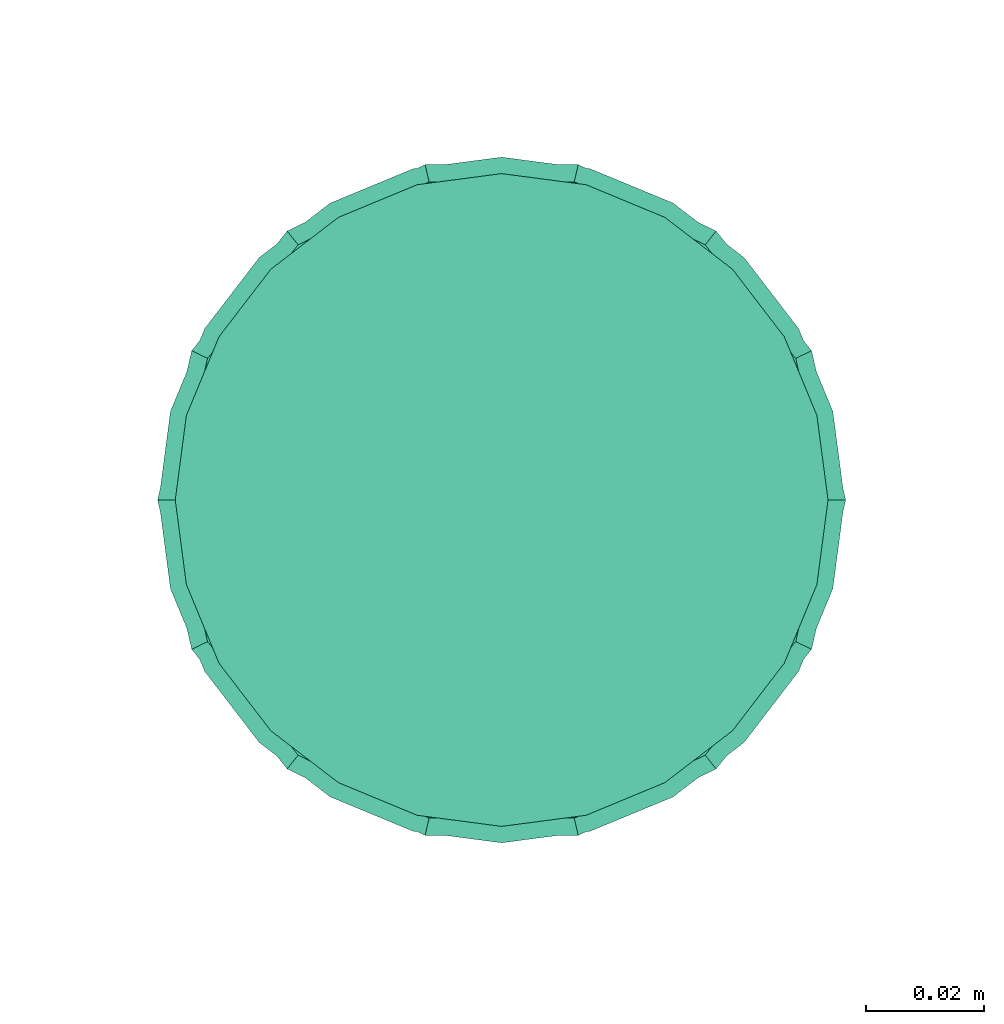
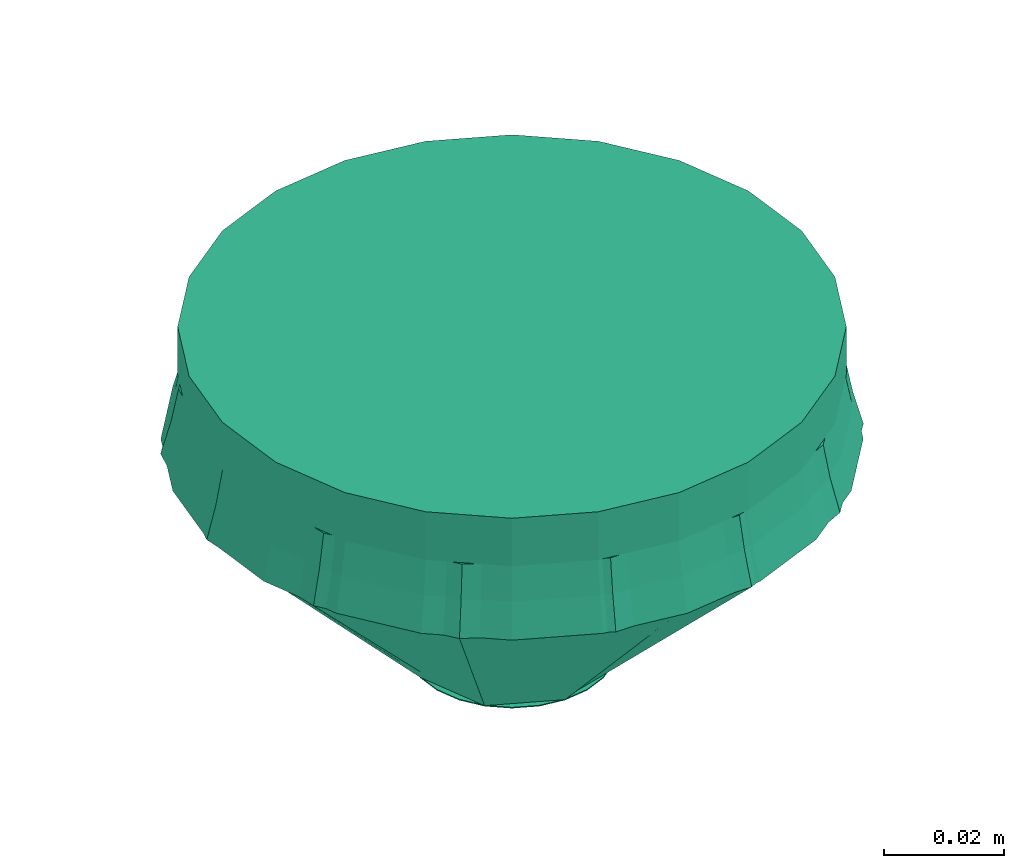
# One storey, part 3 of 10: 1 distribution control element.
"""IFC2X3 building model written with IfcOpenShell, lengths in millimetres."""

import ifcopenshell
import ifcopenshell.guid

model = None  # the IFC model being written
_history = None  # IfcOwnerHistory: only IFC2X3 demands one
_inside = {}  # id of a spatial element -> (the spatial element, [elements in it])
_under = {}  # id of a project, library or spatial element -> (it, [spatial elements below it])
_declared = {}  # id of a project -> (the project, [libraries it declares])
_typed = {}  # id of a type object -> (the type object, [elements of that type])
_made_of = {}  # id of a material, layer set ... -> (it, [elements and type objects made of it])


def new_model(schema):
    """Start an empty IFC model of exactly this schema.

    Asked for "IFC4X3", IfcOpenShell would pick the latest addendum, in which some entities
    have other attributes; the version numbers below select the first issue.
    IFC2X3 requires an IfcOwnerHistory on every rooted entity: one is made here for all.
    """
    global model, _history
    if schema == "IFC4X3":
        model = ifcopenshell.file(schema_version=(4, 3, 0, 0))
    else:
        model = ifcopenshell.file(schema=schema)
    _inside.clear()
    _under.clear()
    _declared.clear()
    _typed.clear()
    _made_of.clear()
    _history = None
    if model.schema == "IFC2X3":
        org = make("IfcOrganization", Name="unknown")
        user = make(
            "IfcPersonAndOrganization",
            ThePerson=make("IfcPerson", FamilyName="unknown"),
            TheOrganization=org,
        )
        app = make(
            "IfcApplication",
            ApplicationDeveloper=org,
            Version="unknown",
            ApplicationFullName="unknown",
            ApplicationIdentifier="unknown",
        )
        _history = make(
            "IfcOwnerHistory",
            OwningUser=user,
            OwningApplication=app,
            ChangeAction="ADDED",
            CreationDate=0,
        )
    return model


def make(cls, **values):
    """One entity of the class cls with the attributes given. An attribute that is None is left unset."""
    return model.create_entity(
        cls, **{name: value for name, value in values.items() if value is not None}
    )


def entity(cls, *values):
    """Any entity or typed value of the class cls, its attributes in the order of the schema. None: left unset."""
    e = model.create_entity(cls)
    for i, value in enumerate(values):
        if value is not None:
            e[i] = value
    return e


def rooted(cls, **values):
    """An entity with a GlobalId (a new one), such as an element, a storey or a relation."""
    return make(cls, GlobalId=ifcopenshell.guid.new(), OwnerHistory=_history, **values)


def si_unit(unit_type, name, prefix=None):
    """IfcSIUnit, for example si_unit("LENGTHUNIT", "METRE", prefix="MILLI")."""
    return make("IfcSIUnit", UnitType=unit_type, Prefix=prefix, Name=name)


def converted_unit(unit_type, name, factor, base, dimensions=None, offset=None):
    """IfcConversionBasedUnit, such as the inch: factor (a typed value) times the base unit."""
    return make(
        "IfcConversionBasedUnit"
        if offset is None
        else "IfcConversionBasedUnitWithOffset",
        ConversionOffset=offset,
        Dimensions=None
        if dimensions is None
        else entity("IfcDimensionalExponents", *dimensions),
        UnitType=unit_type,
        Name=name,
        ConversionFactor=make(
            "IfcMeasureWithUnit", ValueComponent=factor, UnitComponent=base
        ),
    )


def derived_unit(unit_type, elements):
    """IfcDerivedUnit: a product of units, each with its exponent."""
    return make(
        "IfcDerivedUnit",
        Elements=[
            make("IfcDerivedUnitElement", Unit=unit, Exponent=power)
            for unit, power in elements
        ],
        UnitType=unit_type,
    )


def assignment(units):
    """IfcUnitAssignment: the units of a project."""
    return None if units is None else make("IfcUnitAssignment", Units=units)


def point(xyz):
    """IfcCartesianPoint."""
    return None if xyz is None else make("IfcCartesianPoint", Coordinates=xyz)


def direction(xyz):
    """IfcDirection."""
    return None if xyz is None else make("IfcDirection", DirectionRatios=xyz)


def frame(location, z_axis=None, x_axis=None):
    """IfcAxis2Placement3D, a coordinate frame: its origin and axes. An axis left out is left unset."""
    return make(
        "IfcAxis2Placement3D",
        Location=point(location),
        Axis=direction(z_axis),
        RefDirection=direction(x_axis),
    )


def origin_with_axes():
    """The frame at (0, 0, 0) with the z axis (0, 0, 1) and the x axis (1, 0, 0) written out."""
    return frame((0.0, 0.0, 0.0), z_axis=(0.0, 0.0, 1.0), x_axis=(1.0, 0.0, 0.0))


def place(relative_to, where):
    """IfcLocalPlacement: puts the frame where relative to a parent placement (None: the world)."""
    return make(
        "IfcLocalPlacement", PlacementRelTo=relative_to, RelativePlacement=where
    )


def context(
    kind, dimensions, precision=None, world=None, true_north=None, identifier=None
):
    """IfcGeometricRepresentationContext, for example the 3D "Model" context."""
    return make(
        "IfcGeometricRepresentationContext",
        ContextIdentifier=identifier,
        ContextType=kind,
        CoordinateSpaceDimension=dimensions,
        Precision=precision,
        WorldCoordinateSystem=world,
        TrueNorth=true_north,
    )


def subcontext(parent, identifier, kind, view, scale=None):
    """IfcGeometricRepresentationSubContext, for example "Body" below "Model"."""
    return make(
        "IfcGeometricRepresentationSubContext",
        ContextIdentifier=identifier,
        ContextType=kind,
        ParentContext=parent,
        TargetScale=scale,
        TargetView=view,
    )


def project(units=None, contexts=None):
    """IfcProject with its units and contexts."""
    return rooted(
        "IfcProject",
        Name="project",
        RepresentationContexts=contexts,
        UnitsInContext=assignment(units),
    )


def spatial(cls, under=None, at=None, **own):
    """A site, building, storey or space (cls), placed at a placement, below another one or the project."""
    s = rooted(cls, ObjectPlacement=at, **own)
    if under is not None:
        _under.setdefault(under.id(), (under, []))[1].append(s)
    return s


def faces_of(points, faces, orient=None, outer=None):
    """IfcFace entities. A face is a list of loops; a loop is a list of indices into points, from 0.

    orient and outer hold one flag for each loop. By default every Orientation is true, the
    first loop of a face is its IfcFaceOuterBound and the others are IfcFaceBound.
    """
    made = []
    for i, loops in enumerate(faces):
        bounds = []
        for j, loop in enumerate(loops):
            is_outer = j == 0 if outer is None else outer[i][j]
            bounds.append(
                make(
                    "IfcFaceOuterBound" if is_outer else "IfcFaceBound",
                    Bound=make("IfcPolyLoop", Polygon=[points[k] for k in loop]),
                    Orientation=True if orient is None else orient[i][j],
                )
            )
        made.append(make("IfcFace", Bounds=bounds))
    return made


def open_shell(faces, orient=None, outer=None):
    """The faces of one IfcOpenShell. surface_model builds it on its shared points."""
    return ("IfcOpenShell", faces, orient, outer)


def surface_model(cls, points, shells):
    """IfcFaceBasedSurfaceModel or IfcShellBasedSurfaceModel (cls): surfaces that need not close."""
    shared = [point(p) for p in points]
    made = [make(c, CfsFaces=faces_of(shared, fs, o, b)) for c, fs, o, b in shells]
    if cls == "IfcFaceBasedSurfaceModel":
        return make(cls, FbsmFaces=made)
    return make(cls, SbsmBoundary=made)


def shape(context_of_items, identifier, shape_type, items):
    """IfcShapeRepresentation: the items that make up one representation, for example the "Body"."""
    return make(
        "IfcShapeRepresentation",
        ContextOfItems=context_of_items,
        RepresentationIdentifier=identifier,
        RepresentationType=shape_type,
        Items=items,
    )


def source(mapping_origin, context_of_items, identifier, shape_type, items):
    """IfcRepresentationMap: a shape defined once, which mapped items show again and again."""
    return make(
        "IfcRepresentationMap",
        MappingOrigin=mapping_origin,
        MappedRepresentation=shape(context_of_items, identifier, shape_type, items),
    )


def transform(
    local_origin,
    x_axis=None,
    y_axis=None,
    z_axis=None,
    scale=None,
    scale2=None,
    scale3=None,
    uniform=True,
):
    """IfcCartesianTransformationOperator3D, or its non-uniform kind. x_axis, y_axis, z_axis: its Axis1, 2, 3."""
    if uniform:
        return make(
            "IfcCartesianTransformationOperator3D",
            Axis1=direction(x_axis),
            Axis2=direction(y_axis),
            LocalOrigin=point(local_origin),
            Scale=scale,
            Axis3=direction(z_axis),
        )
    return make(
        "IfcCartesianTransformationOperator3DnonUniform",
        Axis1=direction(x_axis),
        Axis2=direction(y_axis),
        LocalOrigin=point(local_origin),
        Scale=scale,
        Axis3=direction(z_axis),
        Scale2=scale2,
        Scale3=scale3,
    )


def mapped(mapping_source, mapping_target):
    """IfcMappedItem: shows the shape of a source again, moved by a transform."""
    return make(
        "IfcMappedItem", MappingSource=mapping_source, MappingTarget=mapping_target
    )


def made_of(thing, what):
    """Note that an element or type object is made of a material, layer set ...; save() writes the relation."""
    if what is not None:
        _made_of.setdefault(what.id(), (what, []))[1].append(thing)
    return thing


def type_object(cls, material=None, **own):
    """A type object (cls), such as IfcWallType, which elements share."""
    return made_of(rooted(cls, **own), material)


def element(
    cls,
    number,
    at=None,
    inside=None,
    cuts=None,
    type_object=None,
    material=None,
    context=None,
    identifier="Body",
    shape_type=None,
    held_by="IfcProductDefinitionShape",
    body=None,
    shapes=None,
    **own,
):
    """One element of the class cls, such as IfcWall. Its Tag is "e" and its number.

    at: its placement. inside: the storey or other place that contains it. cuts: it is an
    opening in that element (IfcRelVoidsElement). A single representation is given by context,
    identifier, shape_type and body (its items); several are given by shapes. held_by: the class
    of the entity that holds the representations. save() writes the other relations.
    """
    e = rooted(cls, Tag="e%d" % number, ObjectPlacement=at, **own)
    if body is not None:
        shapes = [shape(context, identifier, shape_type, body)]
    if shapes is not None:
        e.Representation = make(held_by, Representations=shapes)
    if inside is not None:
        _inside.setdefault(inside.id(), (inside, []))[1].append(e)
    if cuts is not None:
        rooted(
            "IfcRelVoidsElement", RelatingBuildingElement=cuts, RelatedOpeningElement=e
        )
    if type_object is not None:
        _typed.setdefault(type_object.id(), (type_object, []))[1].append(e)
    return made_of(e, material)


def aggregate(whole, parts):
    """IfcRelAggregates: a whole, such as a stair, and the parts it consists of."""
    return rooted("IfcRelAggregates", RelatingObject=whole, RelatedObjects=parts)


def save(model, path):
    """Write the relations noted so far, then the file.

    IfcRelAggregates (storeys below a building ...), IfcRelContainedInSpatialStructure (elements
    in a storey), IfcRelDefinesByType, IfcRelAssociatesMaterial and IfcRelDeclares: one each for
    every whole, place, type object, material and project.
    """
    for whole, parts in _under.values():
        aggregate(whole, parts)
    for where, things in _inside.values():
        rooted(
            "IfcRelContainedInSpatialStructure",
            RelatedElements=things,
            RelatingStructure=where,
        )
    for kind, things in _typed.values():
        rooted("IfcRelDefinesByType", RelatedObjects=things, RelatingType=kind)
    for what, things in _made_of.values():
        rooted("IfcRelAssociatesMaterial", RelatedObjects=things, RelatingMaterial=what)
    for by, libraries in _declared.values():
        rooted("IfcRelDeclares", RelatingContext=by, RelatedDefinitions=libraries)
    model.write(path)


model = new_model("IFC2X3")

# Units and contexts
model_context = context("Model", 3, precision=0.01, world=frame((0.0, 4.29681676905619e-09, 0.0)), true_north=direction((4.01073788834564e-13, 1.0)))
plan_context = context("Plan", 3, precision=0.01, world=frame((0.0, 4.29681676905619e-09, 0.0)), true_north=direction((4.01073788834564e-13, 1.0)))
body_context = subcontext(model_context, "Body", "Model", "MODEL_VIEW")
ifc_project = project(units=[converted_unit("PLANEANGLEUNIT", "DEGREE", entity("IfcPositiveLengthMeasure", 0.0174532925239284), si_unit("PLANEANGLEUNIT", "RADIAN"), dimensions=[0, 0, 0, 0, 0, 0, 0]), si_unit("AREAUNIT", "SQUARE_METRE"), si_unit("LENGTHUNIT", "METRE", prefix="MILLI"), si_unit("MASSUNIT", "GRAM", prefix="KILO"), si_unit("POWERUNIT", "WATT"), si_unit("PRESSUREUNIT", "PASCAL"), si_unit("FORCEUNIT", "NEWTON", prefix="KILO"), si_unit("ELECTRICVOLTAGEUNIT", "VOLT"), si_unit("ELECTRICCURRENTUNIT", "AMPERE"), si_unit("THERMODYNAMICTEMPERATUREUNIT", "DEGREE_CELSIUS"), si_unit("TIMEUNIT", "SECOND"), si_unit("VOLUMEUNIT", "CUBIC_METRE"), derived_unit("LINEARVELOCITYUNIT", [(si_unit("LENGTHUNIT", "METRE"), 1), (si_unit("TIMEUNIT", "SECOND"), -1)]), derived_unit("VOLUMETRICFLOWRATEUNIT", [(si_unit("VOLUMEUNIT", "CUBIC_METRE"), 1), (si_unit("TIMEUNIT", "SECOND"), -1)]), derived_unit("THERMALTRANSMITTANCEUNIT", [(si_unit("POWERUNIT", "WATT"), 1), (si_unit("THERMODYNAMICTEMPERATUREUNIT", "KELVIN"), -1), (si_unit("AREAUNIT", "SQUARE_METRE"), -1)]), derived_unit("SOUNDPRESSUREUNIT", [(si_unit("PRESSUREUNIT", "PASCAL"), 1)])], contexts=[model_context, plan_context])

# Site, building, storey
site_placement = place(None, frame((0.0, -4.29681676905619e-09, 0.0), z_axis=(0.0, 0.0, 1.0), x_axis=(1.0, 0.0, 0.0)))
site = spatial("IfcSite", under=ifc_project, at=site_placement, Name="ENGM", CompositionType="ELEMENT")
building_placement = place(site_placement, frame((0.0, 4.29681676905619e-09, 0.0), z_axis=(0.0, 0.0, 1.0), x_axis=(1.0, 0.0, 0.0)))
building = spatial("IfcBuilding", under=site, at=building_placement, Name="TS", CompositionType="ELEMENT")
storey_placement = place(building_placement, frame((0.0, 0.0, 210900.0), z_axis=(0.0, 0.0, 1.0), x_axis=(1.0, 0.0, 0.0)))
storey = spatial("IfcBuildingStorey", under=building, at=storey_placement, Name="Nivå F", CompositionType="ELEMENT", Elevation=210900.0)

# Distribution control element
alarm_type = type_object("IfcAlarmType", Name="Brannalarm Multikriteriedetektor OT Blue", PredefinedType="NOTDEFINED")
shared_shape = source(origin_with_axes(), body_context, "Body", "SurfaceModel", [
    surface_model("IfcShellBasedSurfaceModel", [(8.775, -15.19875, -64.9), (-12.40972, -12.40972, -64.9), (4.54227, -16.952, -64.9), (15.19875, -8.775, -64.9), (12.40972, -12.40972, -64.9), (16.952, -4.54227, -64.9), (-4.54227, 16.952, -64.9), (-16.952, -4.54227, -64.9), (0.0, -17.55, -64.9), (-8.775, -15.19875, -64.9), (-4.54227, -16.952, -64.9), (-15.19875, -8.775, -64.9), (17.55, 0.0, -64.9), (15.19875, 8.775, -64.9), (16.952, 4.54227, -64.9), (0.0, 17.55, -64.9), (12.40972, 12.40972, -64.9), (4.54227, 16.952, -64.9), (8.775, 15.19875, -64.9), (-17.55, 0.0, -64.9), (-15.19875, 8.775, -64.9), (-16.952, 4.54227, -64.9), (-12.40972, 12.40972, -64.9), (-8.775, 15.19875, -64.9), (16.952, 4.54227, -65.1), (0.0, 17.55, -65.1), (4.54227, 16.952, -65.1), (12.40972, 12.40972, -65.1), (8.775, 15.19875, -65.1), (15.19875, 8.775, -65.1), (-12.40972, 12.40972, -65.1), (-4.54227, 16.952, -65.1), (-8.775, 15.19875, -65.1), (-15.19875, 8.775, -65.1), (-17.55, 0.0, -65.1), (-16.952, 4.54227, -65.1), (-16.952, -4.54227, -65.1), (16.952, -4.54227, -65.1), (8.775, -15.19875, -65.1), (15.19875, -8.775, -65.1), (12.40972, -12.40972, -65.1), (-12.40972, -12.40972, -65.1), (4.54227, -16.952, -65.1), (-15.19875, -8.775, -65.1), (-8.775, -15.19875, -65.1), (0.0, -17.55, -65.1), (-4.54227, -16.952, -65.1), (17.55, 0.0, -65.1), (-36.47415, 45.73714, -22.75), (-52.70668, 25.3822, -22.75), (-58.5, 0.0, -22.75), (52.70668, 25.3822, -22.75), (13.01748, 57.03328, -22.75), (-13.01748, 57.03328, -22.75), (36.47415, 45.73714, -22.75), (-52.70668, -25.3822, -22.75), (-36.47415, -45.73714, -22.75), (-13.01748, -57.03328, -22.75), (36.47415, -45.73714, -22.75), (52.70668, -25.3822, -22.75), (58.5, 0.0, -22.75), (13.01748, -57.03328, -22.75), (0.0, 17.55, -65.0), (12.40972, 12.40972, -65.0), (-12.40972, 12.40972, -65.0), (-12.40972, -12.40972, -65.0), (-17.55, 0.0, -65.0), (17.55, 0.0, -65.0), (12.40972, -12.40972, -65.0), (0.0, -17.55, -65.0), (-44.59042, -35.55967, -22.75), (-13.69479, -9.30729, -65.0), (55.60334, -12.6911, -22.75), (14.97986, -6.20486, -65.0), (16.26493, -3.10243, -65.0), (-9.30729, -13.69479, -65.0), (-6.20486, -14.97986, -65.0), (-24.74581, -51.38521, -22.75), (-14.97986, -6.20486, -65.0), (24.74581, -51.38521, -22.75), (9.30729, -13.69479, -65.0), (-55.60334, -12.6911, -22.75), (-16.26493, -3.10243, -65.0), (-3.10243, -16.26493, -65.0), (3.10243, -16.26493, -65.0), (0.0, -57.03328, -22.75), (44.59042, -35.55967, -22.75), (13.69479, -9.30729, -65.0), (6.20486, -14.97986, -65.0), (44.59042, 35.55967, -22.75), (13.69479, 9.30729, -65.0), (-55.60334, 12.6911, -22.75), (-14.97986, 6.20486, -65.0), (-16.26493, 3.10243, -65.0), (9.30729, 13.69479, -65.0), (6.20486, 14.97986, -65.0), (24.74581, 51.38521, -22.75), (14.97986, 6.20486, -65.0), (-24.74581, 51.38521, -22.75), (-9.30729, 13.69479, -65.0), (55.60334, 12.6911, -22.75), (16.26493, 3.10243, -65.0), (3.10243, 16.26493, -65.0), (-3.10243, 16.26493, -65.0), (0.0, 57.03328, -22.75), (-44.59042, 35.55967, -22.75), (-13.69479, 9.30729, -65.0), (-6.20486, 14.97986, -65.0), (-28.275, 48.97374, -16.25), (-32.41056, 45.80041, -16.25), (-13.88456, 54.72206, -16.25), (-49.79102, 26.30191, -16.25), (-39.98689, 39.98689, -16.25), (-48.97374, 28.275, -16.25), (-37.1285, 42.18021, -16.25), (-35.38305, 44.36894, -16.25), (-56.2774, 2.07059, -16.25), (-56.75, 0.0, -16.25), (-56.55, 0.0, -16.25), (-51.91976, 21.16268, -16.25), (-51.12998, 24.6229, -16.25), (-54.62311, 14.63622, -16.25), (28.275, 48.97374, -16.25), (14.63622, 54.62311, -16.25), (13.88456, 54.72206, -16.25), (54.62311, -14.63622, -16.25), (56.2774, -2.07059, -16.25), (51.91976, -21.16268, -16.25), (12.62806, 55.32716, -16.25), (9.2884, 55.32716, -16.25), (49.79102, 26.30191, -16.25), (39.98689, 39.98689, -16.25), (37.1285, 42.18021, -16.25), (56.55, 0.0, -16.25), (56.75, 0.0, -16.25), (56.2774, 2.07059, -16.25), (39.98689, -39.98689, -16.25), (49.79102, -26.30191, -16.25), (37.1285, -42.18021, -16.25), (35.38305, 44.36894, -16.25), (32.41056, 45.80041, -16.25), (35.38305, -44.36894, -16.25), (32.41056, -45.80041, -16.25), (-56.2774, -2.07059, -16.25), (-49.79102, -26.30191, -16.25), (-51.91976, -21.16268, -16.25), (-51.12998, -24.6229, -16.25), (-37.1285, -42.18021, -16.25), (-35.38305, -44.36894, -16.25), (-32.41056, -45.80041, -16.25), (-13.88456, -54.72206, -16.25), (-28.275, -48.97374, -16.25), (-14.63622, -54.62311, -16.25), (51.12998, -24.6229, -16.25), (-39.98689, -39.98689, -16.25), (-48.97374, -28.275, -16.25), (-9.2884, 55.32716, -16.25), (-12.62806, 55.32716, -16.25), (28.275, -48.97374, -16.25), (13.88456, -54.72206, -16.25), (14.63622, -54.62311, -16.25), (48.97374, -28.275, -16.25), (12.62806, -55.32716, -16.25), (9.2884, -55.32716, -16.25), (0.0, -56.55, -16.25), (-9.2884, -55.32716, -16.25), (-12.62806, -55.32716, -16.25), (-54.62311, -14.63622, -16.25), (-14.63622, 54.62311, -16.25), (0.0, 56.55, -16.25), (48.97374, 28.275, -16.25), (51.91976, 21.16268, -16.25), (51.12998, 24.6229, -16.25), (54.62311, 14.63622, -16.25), (29.15, 50.48928, -22.75), (33.43697, 47.19977, -22.75), (14.29509, 56.41801, -22.75), (51.34019, 27.09572, -22.75), (41.22432, 41.22432, -22.75), (50.48928, 29.15, -22.75), (58.0274, 2.07059, -22.75), (58.3, 0.0, -22.75), (38.25759, 43.50078, -22.75), (-33.43697, 47.19977, -22.75), (-38.25759, 43.50078, -22.75), (56.31348, 15.08915, -22.75), (53.51269, 21.85086, -22.75), (-14.29509, -56.41801, -22.75), (-9.62167, -57.03328, -22.75), (-29.15, 50.48928, -22.75), (-15.08915, 56.31348, -22.75), (-14.29509, 56.41801, -22.75), (-56.31348, -15.08915, -22.75), (-58.0274, -2.07059, -22.75), (-53.51269, -21.85086, -22.75), (-9.62167, 57.03328, -22.75), (-51.34019, 27.09572, -22.75), (-41.22432, 41.22432, -22.75), (-41.22432, -41.22432, -22.75), (-51.34019, -27.09572, -22.75), (-38.25759, -43.50078, -22.75), (-58.3, 0.0, -22.75), (-58.0274, 2.07059, -22.75), (58.0274, -2.07059, -22.75), (-33.43697, -47.19977, -22.75), (51.34019, -27.09572, -22.75), (53.51269, -21.85086, -22.75), (41.22432, -41.22432, -22.75), (38.25759, -43.50078, -22.75), (29.15, -50.48928, -22.75), (15.08915, -56.31348, -22.75), (14.29509, -56.41801, -22.75), (9.62167, -57.03328, -22.75), (33.43697, -47.19977, -22.75), (50.48928, -29.15, -22.75), (9.62167, 57.03328, -22.75), (-29.15, -50.48928, -22.75), (-15.08915, -56.31348, -22.75), (-50.48928, -29.15, -22.75), (0.0, -58.3, -22.75), (56.31348, -15.08915, -22.75), (15.08915, 56.31348, -22.75), (0.0, 58.3, -22.75), (-50.48928, 29.15, -22.75), (-53.51269, 21.85086, -22.75), (-56.31348, 15.08915, -22.75), (53.15004, -15.77246, -16.25), (43.25652, -34.49592, -16.25), (-54.78902, -16.25884, -22.75), (-53.93999, -12.31145, -16.25), (24.00555, -49.84805, -16.25), (0.0, -55.32716, -16.25), (-24.00555, -49.84805, -16.25), (-43.25652, -34.49592, -16.25), (-53.15004, 15.77246, -16.25), (-43.25652, 34.49592, -16.25), (54.78902, 16.25884, -22.75), (53.93999, 12.31145, -16.25), (-24.00555, 49.84805, -16.25), (0.0, 55.32716, -16.25), (24.00555, 49.84805, -16.25), (43.25652, 34.49592, -16.25), (-27.65, 47.8912, -9.75), (-31.6774, 44.80087, -9.75), (-13.59132, 53.51067, -9.75), (-48.68446, 25.73491, -9.75), (-39.103, 39.103, -9.75), (-47.8912, 27.65, -9.75), (-34.60368, 43.39165, -9.75), (-36.322, 41.23694, -9.75), (-55.0274, 2.07059, -9.75), (-55.5, 0.0, -9.75), (-55.3, 0.0, -9.75), (-50.00377, 24.08055, -9.75), (-50.78195, 20.67112, -9.75), (-53.4157, 14.31269, -9.75), (27.65, 47.8912, -9.75), (14.31269, 53.4157, -9.75), (13.59132, 53.51067, -9.75), (53.4157, -14.31269, -9.75), (55.0274, -2.07059, -9.75), (50.78195, -20.67112, -9.75), (9.05035, 54.1085, -9.75), (12.34991, 54.1085, -9.75), (48.68446, 25.73491, -9.75), (39.103, 39.103, -9.75), (36.322, 41.23694, -9.75), (39.103, -39.103, -9.75), (48.68446, -25.73491, -9.75), (36.322, -41.23694, -9.75), (34.60368, 43.39165, -9.75), (31.6774, 44.80087, -9.75), (55.0274, 2.07059, -9.75), (55.3, 0.0, -9.75), (55.5, 0.0, -9.75), (34.60368, -43.39165, -9.75), (31.6774, -44.80087, -9.75), (-55.0274, -2.07059, -9.75), (-48.68446, -25.73491, -9.75), (-50.78195, -20.67112, -9.75), (-50.00377, -24.08055, -9.75), (-12.34991, -54.1085, -9.75), (-9.05035, -54.1085, -9.75), (-13.59132, -53.51067, -9.75), (-27.65, -47.8912, -9.75), (-14.31269, -53.4157, -9.75), (50.00377, -24.08055, -9.75), (-31.6774, -44.80087, -9.75), (-39.103, -39.103, -9.75), (-36.322, -41.23694, -9.75), (-47.8912, -27.65, -9.75), (-9.05035, 54.1085, -9.75), (-12.34991, 54.1085, -9.75), (27.65, -47.8912, -9.75), (13.59132, -53.51067, -9.75), (14.31269, -53.4157, -9.75), (47.8912, -27.65, -9.75), (0.0, -55.3, -9.75), (9.05035, -54.1085, -9.75), (12.34991, -54.1085, -9.75), (-34.60368, -43.39165, -9.75), (-53.4157, -14.31269, -9.75), (-14.31269, 53.4157, -9.75), (0.0, 55.3, -9.75), (47.8912, 27.65, -9.75), (50.78195, 20.67112, -9.75), (50.00377, 24.08055, -9.75), (53.4157, 14.31269, -9.75), (51.93259, -15.62982, -9.75), (42.30373, -33.7361, -9.75), (-53.10225, -15.98184, -16.25), (-52.75189, -12.04027, -9.75), (23.4768, -48.75007, -9.75), (53.93999, -12.31145, -16.25), (0.0, -54.1085, -9.75), (-23.4768, -48.75007, -9.75), (-42.30373, -33.7361, -9.75), (-51.93259, 15.62982, -9.75), (-42.30373, 33.7361, -9.75), (53.10225, 15.98184, -16.25), (52.75189, 12.04027, -9.75), (-23.4768, 48.75007, -9.75), (-53.93999, 12.31145, -16.25), (0.0, 54.1085, -9.75), (23.4768, 48.75007, -9.75), (42.30373, 33.7361, -9.75), (14.36446, -53.60888, 0.0), (27.75, -48.06441, 0.0), (39.24443, -39.24443, 0.0), (0.0, -55.5, 0.0), (48.06441, -27.75, 0.0), (53.60888, -14.36446, 0.0), (55.5, 0.0, 0.0), (-27.75, -48.06441, 0.0), (-14.36446, -53.60888, 0.0), (-48.06441, -27.75, 0.0), (-39.24443, -39.24443, 0.0), (-53.60888, -14.36446, 0.0), (48.06441, 27.75, 0.0), (14.36446, 53.60888, 0.0), (39.24443, 39.24443, 0.0), (0.0, 55.5, 0.0), (27.75, 48.06441, 0.0), (-27.75, 48.06441, 0.0), (-55.5, 0.0, 0.0), (-48.06441, 27.75, 0.0), (-53.60888, 14.36446, 0.0), (-39.24443, 39.24443, 0.0), (-14.36446, 53.60888, 0.0), (53.60888, 14.36446, 0.0), (14.36446, 53.60888, -9.75), (-27.75, 48.06441, -9.75), (0.0, 55.5, -9.75), (39.24443, 39.24443, -9.75), (27.75, 48.06441, -9.75), (48.06441, 27.75, -9.75), (53.60888, 14.36446, -9.75), (-48.06441, 27.75, -9.75), (-39.24443, 39.24443, -9.75), (-14.36446, 53.60888, -9.75), (-53.60888, 14.36446, -9.75), (53.60888, -14.36446, -9.75), (48.06441, -27.75, -9.75), (-53.60888, -14.36446, -9.75), (39.24443, -39.24443, -9.75), (27.75, -48.06441, -9.75), (14.36446, -53.60888, -9.75), (-27.75, -48.06441, -9.75), (-48.06441, -27.75, -9.75), (-39.24443, -39.24443, -9.75), (0.0, -55.5, -9.75), (-14.36446, -53.60888, -9.75)], [open_shell([[[0, 1, 2]], [[3, 0, 4]], [[0, 5, 1]], [[5, 0, 3]], [[5, 6, 7]], [[8, 9, 10]], [[9, 8, 1]], [[1, 7, 11]], [[1, 8, 2]], [[5, 7, 1]], [[5, 12, 6]], [[13, 6, 14]], [[15, 13, 16]], [[17, 15, 16]], [[17, 16, 18]], [[6, 13, 15]], [[19, 20, 21]], [[19, 7, 20]], [[22, 6, 23]], [[7, 22, 20]], [[6, 22, 7]], [[12, 14, 6]], [[24, 25, 26]], [[27, 26, 28]], [[29, 24, 26]], [[29, 26, 27]], [[25, 24, 30]], [[31, 30, 32]], [[31, 25, 30]], [[33, 34, 35]], [[36, 34, 33]], [[33, 30, 36]], [[30, 24, 37]], [[36, 30, 37]], [[38, 37, 39]], [[36, 37, 38]], [[38, 39, 40]], [[41, 38, 42]], [[36, 41, 43]], [[36, 38, 41]], [[44, 45, 46]], [[45, 44, 41]], [[42, 45, 41]], [[37, 24, 47]], [[36, 7, 34]], [[43, 11, 36]], [[9, 41, 44]], [[43, 41, 1]], [[10, 44, 46]], [[36, 11, 7]], [[7, 19, 34]], [[10, 9, 44]], [[1, 41, 9]], [[1, 11, 43]], [[8, 10, 46]], [[46, 45, 8]], [[42, 2, 45]], [[38, 0, 42]], [[3, 40, 39]], [[38, 40, 4]], [[5, 39, 37]], [[38, 4, 0]], [[0, 2, 42]], [[12, 5, 37]], [[3, 39, 5]], [[3, 4, 40]], [[47, 12, 37]], [[45, 2, 8]], [[24, 14, 47]], [[29, 13, 24]], [[18, 27, 28]], [[29, 27, 16]], [[17, 28, 26]], [[24, 13, 14]], [[14, 12, 47]], [[17, 18, 28]], [[16, 27, 18]], [[16, 13, 29]], [[15, 17, 26]], [[26, 25, 15]], [[31, 6, 25]], [[32, 23, 31]], [[20, 30, 33]], [[32, 30, 22]], [[21, 33, 35]], [[32, 22, 23]], [[23, 6, 31]], [[19, 21, 35]], [[20, 33, 21]], [[20, 22, 30]], [[34, 19, 35]], [[25, 6, 15]], [[48, 49, 50]], [[48, 50, 51]], [[52, 53, 51]], [[51, 54, 52]], [[53, 48, 51]], [[50, 55, 51]], [[55, 56, 57]], [[57, 58, 51]], [[59, 60, 58]], [[60, 51, 58]], [[57, 61, 58]], [[51, 55, 57]], [[62, 63, 64]], [[65, 66, 64]], [[64, 63, 65]], [[67, 68, 69]], [[69, 65, 67]], [[67, 65, 63]], [[65, 70, 71]], [[72, 73, 74]], [[75, 76, 77]], [[55, 78, 71]], [[79, 80, 58]], [[78, 55, 81]], [[81, 82, 78]], [[57, 76, 83]], [[84, 85, 69]], [[59, 73, 72]], [[55, 71, 70]], [[69, 85, 83]], [[60, 74, 67]], [[68, 86, 58]], [[86, 68, 87]], [[56, 65, 75]], [[87, 59, 86]], [[60, 72, 74]], [[65, 56, 70]], [[66, 82, 50]], [[50, 82, 81]], [[56, 75, 77]], [[80, 79, 88]], [[61, 84, 88]], [[80, 68, 58]], [[87, 73, 59]], [[76, 57, 77]], [[85, 84, 61]], [[57, 83, 85]], [[79, 61, 88]], [[63, 89, 90]], [[91, 92, 93]], [[94, 95, 96]], [[51, 97, 90]], [[98, 99, 48]], [[97, 51, 100]], [[100, 101, 97]], [[52, 95, 102]], [[103, 104, 62]], [[49, 92, 91]], [[51, 90, 89]], [[62, 104, 102]], [[50, 93, 66]], [[64, 105, 48]], [[105, 64, 106]], [[54, 63, 94]], [[106, 49, 105]], [[50, 91, 93]], [[63, 54, 89]], [[67, 101, 60]], [[60, 101, 100]], [[54, 94, 96]], [[99, 98, 107]], [[53, 103, 107]], [[99, 64, 48]], [[106, 92, 49]], [[95, 52, 96]], [[104, 103, 53]], [[52, 102, 104]], [[98, 53, 107]], [[108, 109, 110]], [[111, 112, 113]], [[114, 109, 115]], [[116, 117, 118]], [[119, 111, 120]], [[121, 116, 119]], [[122, 123, 124]], [[125, 126, 127]], [[128, 129, 124]], [[130, 131, 132]], [[133, 134, 135]], [[136, 137, 138]], [[132, 139, 140]], [[141, 138, 142]], [[112, 111, 114]], [[117, 143, 118]], [[144, 145, 146]], [[147, 148, 149]], [[150, 151, 152]], [[127, 137, 153]], [[151, 150, 149]], [[154, 147, 144]], [[154, 144, 155]], [[110, 156, 157]], [[158, 159, 160]], [[133, 126, 134]], [[161, 137, 136]], [[162, 159, 163]], [[164, 163, 165]], [[158, 142, 159]], [[150, 166, 165]], [[167, 145, 143]], [[108, 110, 168]], [[169, 156, 129]], [[122, 124, 140]], [[131, 130, 170]], [[130, 171, 172]], [[173, 171, 135]], [[174, 175, 176]], [[177, 178, 179]], [[180, 60, 181]], [[54, 182, 175]], [[48, 183, 184]], [[185, 180, 186]], [[57, 187, 188]], [[189, 190, 191]], [[192, 193, 194]], [[195, 191, 53]], [[196, 197, 184]], [[198, 199, 200]], [[51, 186, 177]], [[201, 50, 202]], [[203, 181, 60]], [[178, 177, 182]], [[204, 56, 200]], [[205, 206, 59]], [[205, 207, 208]], [[209, 210, 211]], [[212, 211, 61]], [[209, 211, 213]], [[194, 199, 55]], [[207, 205, 214]], [[215, 52, 176]], [[216, 187, 217]], [[201, 193, 50]], [[198, 218, 199]], [[208, 58, 213]], [[219, 188, 212]], [[204, 187, 216]], [[220, 206, 203]], [[174, 176, 221]], [[222, 215, 195]], [[189, 191, 183]], [[197, 196, 223]], [[196, 224, 49]], [[225, 224, 202]], [[153, 59, 226]], [[141, 86, 227]], [[228, 146, 229]], [[162, 79, 230]], [[134, 226, 72]], [[72, 60, 134]], [[226, 59, 72]], [[230, 58, 141]], [[59, 153, 227]], [[141, 58, 86]], [[85, 231, 166]], [[166, 57, 85]], [[148, 77, 232]], [[56, 233, 70]], [[146, 70, 233]], [[57, 232, 77]], [[146, 55, 70]], [[50, 229, 117]], [[162, 61, 79]], [[232, 57, 166]], [[58, 230, 79]], [[146, 228, 55]], [[56, 148, 233]], [[59, 227, 86]], [[148, 56, 77]], [[162, 231, 61]], [[50, 228, 229]], [[61, 231, 85]], [[120, 49, 234]], [[115, 105, 235]], [[236, 172, 237]], [[157, 98, 238]], [[117, 234, 91]], [[91, 50, 117]], [[234, 49, 91]], [[238, 48, 115]], [[49, 120, 235]], [[115, 48, 105]], [[104, 239, 128]], [[128, 52, 104]], [[139, 96, 240]], [[54, 241, 89]], [[172, 89, 241]], [[52, 240, 96]], [[172, 51, 89]], [[60, 237, 134]], [[157, 53, 98]], [[240, 52, 128]], [[48, 238, 98]], [[172, 236, 51]], [[54, 139, 241]], [[49, 235, 105]], [[139, 54, 96]], [[157, 239, 53]], [[60, 236, 237]], [[53, 239, 104]], [[125, 133, 181]], [[125, 220, 161]], [[158, 136, 207]], [[214, 136, 161]], [[160, 158, 209]], [[220, 125, 181]], [[214, 161, 220]], [[207, 209, 158]], [[136, 214, 207]], [[210, 160, 209]], [[210, 219, 164]], [[160, 210, 164]], [[151, 152, 217]], [[151, 216, 154]], [[167, 155, 218]], [[198, 155, 154]], [[118, 167, 192]], [[152, 219, 217]], [[151, 217, 216]], [[155, 198, 218]], [[118, 192, 201]], [[192, 167, 218]], [[198, 154, 216]], [[164, 219, 152]], [[121, 118, 201]], [[121, 225, 113]], [[108, 112, 197]], [[223, 112, 113]], [[168, 108, 189]], [[225, 121, 201]], [[223, 113, 225]], [[197, 189, 108]], [[112, 223, 197]], [[190, 168, 189]], [[190, 222, 169]], [[168, 190, 169]], [[122, 123, 221]], [[122, 174, 131]], [[173, 170, 179]], [[178, 170, 131]], [[133, 173, 185]], [[123, 222, 221]], [[122, 221, 174]], [[170, 178, 179]], [[133, 185, 181]], [[185, 173, 179]], [[178, 131, 174]], [[169, 222, 123]], [[242, 243, 244]], [[245, 246, 247]], [[243, 248, 249]], [[250, 251, 252]], [[253, 254, 245]], [[255, 250, 254]], [[256, 257, 258]], [[259, 260, 261]], [[262, 258, 263]], [[264, 265, 266]], [[267, 268, 269]], [[266, 270, 271]], [[272, 273, 274]], [[275, 269, 276]], [[246, 245, 249]], [[277, 252, 251]], [[278, 279, 280]], [[281, 282, 283]], [[283, 284, 285]], [[261, 268, 286]], [[284, 283, 287]], [[288, 289, 278]], [[288, 278, 290]], [[244, 291, 292]], [[293, 294, 295]], [[273, 260, 274]], [[268, 267, 296]], [[294, 293, 276]], [[297, 298, 282]], [[298, 299, 294]], [[300, 287, 289]], [[301, 279, 277]], [[242, 244, 302]], [[303, 291, 262]], [[256, 258, 271]], [[265, 264, 304]], [[264, 305, 306]], [[307, 305, 272]], [[122, 140, 124]], [[170, 130, 131]], [[135, 134, 133]], [[140, 139, 132]], [[172, 171, 130]], [[173, 135, 171]], [[110, 157, 156]], [[108, 168, 110]], [[167, 143, 145]], [[114, 111, 112]], [[154, 144, 147]], [[115, 109, 114]], [[116, 118, 117]], [[150, 165, 166]], [[131, 130, 132]], [[126, 133, 134]], [[137, 127, 153]], [[145, 144, 146]], [[159, 158, 160]], [[163, 159, 162]], [[158, 159, 142]], [[136, 138, 137]], [[136, 137, 161]], [[124, 129, 128]], [[151, 150, 152]], [[118, 143, 117]], [[155, 144, 154]], [[147, 149, 148]], [[164, 165, 163]], [[151, 149, 150]], [[138, 141, 142]], [[125, 127, 126]], [[122, 124, 123]], [[169, 129, 156]], [[108, 110, 109]], [[112, 111, 113]], [[111, 119, 120]], [[121, 119, 116]], [[286, 153, 308]], [[275, 227, 309]], [[310, 280, 311]], [[299, 230, 312]], [[274, 308, 313]], [[313, 134, 274]], [[308, 153, 313]], [[312, 141, 275]], [[153, 286, 309]], [[275, 141, 227]], [[231, 314, 281]], [[281, 166, 231]], [[300, 232, 315]], [[148, 316, 233]], [[280, 233, 316]], [[166, 315, 232]], [[280, 146, 233]], [[117, 311, 251]], [[299, 162, 230]], [[315, 166, 281]], [[141, 312, 230]], [[280, 310, 146]], [[148, 300, 316]], [[153, 309, 227]], [[300, 148, 232]], [[299, 314, 162]], [[117, 310, 311]], [[162, 314, 231]], [[253, 120, 317]], [[248, 235, 318]], [[319, 306, 320]], [[292, 238, 321]], [[251, 317, 322]], [[322, 117, 251]], [[317, 120, 322]], [[321, 115, 248]], [[120, 253, 318]], [[248, 115, 235]], [[239, 323, 263]], [[263, 128, 239]], [[270, 240, 324]], [[139, 325, 241]], [[306, 241, 325]], [[128, 324, 240]], [[306, 172, 241]], [[134, 320, 274]], [[292, 157, 238]], [[324, 128, 263]], [[115, 321, 238]], [[306, 319, 172]], [[139, 270, 325]], [[120, 318, 235]], [[270, 139, 240]], [[292, 323, 157]], [[134, 319, 320]], [[157, 323, 239]], [[259, 273, 133]], [[259, 125, 296]], [[293, 267, 136]], [[161, 267, 296]], [[295, 293, 158]], [[125, 259, 133]], [[161, 296, 125]], [[136, 158, 293]], [[267, 161, 136]], [[160, 295, 158]], [[160, 164, 297]], [[295, 160, 297]], [[284, 285, 152]], [[284, 151, 288]], [[301, 290, 155]], [[154, 290, 288]], [[252, 301, 167]], [[285, 164, 152]], [[284, 152, 151]], [[290, 154, 155]], [[252, 167, 118]], [[167, 301, 155]], [[154, 288, 151]], [[297, 164, 285]], [[255, 252, 118]], [[255, 121, 247]], [[242, 246, 112]], [[113, 246, 247]], [[302, 242, 108]], [[121, 255, 118]], [[113, 247, 121]], [[112, 108, 242]], [[246, 113, 112]], [[168, 302, 108]], [[168, 169, 303]], [[302, 168, 303]], [[256, 257, 123]], [[256, 122, 265]], [[307, 304, 170]], [[131, 304, 265]], [[273, 307, 173]], [[257, 169, 123]], [[256, 123, 122]], [[304, 131, 170]], [[273, 173, 133]], [[173, 307, 170]], [[131, 265, 122]], [[303, 169, 257]], [[326, 327, 328]], [[329, 326, 328]], [[330, 331, 332]], [[329, 328, 330]], [[333, 330, 332]], [[329, 333, 334]], [[329, 330, 333]], [[333, 335, 336]], [[335, 333, 337]], [[332, 337, 333]], [[332, 338, 337]], [[337, 338, 339]], [[339, 338, 340]], [[339, 341, 337]], [[339, 340, 342]], [[343, 337, 341]], [[344, 345, 346]], [[337, 345, 344]], [[345, 343, 347]], [[343, 345, 337]], [[341, 348, 343]], [[338, 332, 349]], [[350, 351, 352]], [[353, 350, 354]], [[355, 356, 350]], [[355, 350, 353]], [[357, 350, 356]], [[351, 357, 358]], [[351, 359, 352]], [[357, 251, 360]], [[357, 351, 350]], [[251, 357, 356]], [[356, 274, 251]], [[274, 361, 362]], [[363, 274, 362]], [[364, 365, 366]], [[362, 364, 363]], [[366, 367, 364]], [[368, 367, 369]], [[368, 363, 364]], [[367, 370, 371]], [[368, 364, 367]], [[366, 370, 367]], [[274, 363, 251]], [[363, 337, 251]], [[368, 335, 363]], [[333, 369, 367]], [[368, 369, 336]], [[334, 367, 371]], [[363, 335, 337]], [[337, 344, 251]], [[334, 333, 367]], [[336, 369, 333]], [[336, 335, 368]], [[329, 334, 371]], [[371, 370, 329]], [[366, 326, 370]], [[365, 327, 366]], [[330, 364, 362]], [[365, 364, 328]], [[331, 362, 361]], [[365, 328, 327]], [[327, 326, 366]], [[332, 331, 361]], [[330, 362, 331]], [[330, 328, 364]], [[274, 332, 361]], [[370, 326, 329]], [[356, 349, 274]], [[355, 338, 356]], [[342, 353, 354]], [[355, 353, 340]], [[339, 354, 350]], [[356, 338, 349]], [[349, 332, 274]], [[339, 342, 354]], [[340, 353, 342]], [[340, 338, 355]], [[341, 339, 350]], [[350, 352, 341]], [[359, 348, 352]], [[351, 343, 359]], [[345, 358, 357]], [[351, 358, 347]], [[346, 357, 360]], [[351, 347, 343]], [[343, 348, 359]], [[344, 346, 360]], [[345, 357, 346]], [[345, 347, 358]], [[251, 344, 360]], [[352, 348, 341]]])]),
])
distribution_control_element_placement = place(storey_placement, frame((535720.2373, 443705.1432, 2000.0), z_axis=(0.0, 0.0, 1.0), x_axis=(1.0, 0.0, 0.0)))
element("IfcDistributionControlElement", 1, at=distribution_control_element_placement, inside=storey, type_object=alarm_type, Name="Brannalarm Multikriteriedetektor OT Blue", context=body_context, shape_type="MappedRepresentation", body=[
    mapped(shared_shape, transform((0.0, 0.0, 0.0), scale=1.0)),
])

save(model, "model.ifc")
